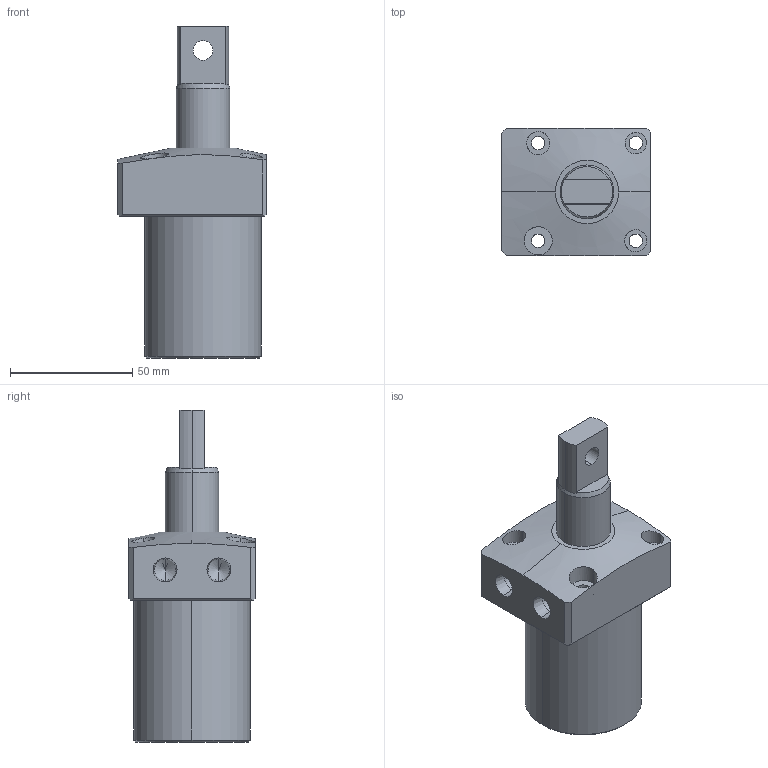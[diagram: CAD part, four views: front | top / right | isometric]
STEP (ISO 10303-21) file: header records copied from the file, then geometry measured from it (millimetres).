
FILE_DESCRIPTION (( 'STEP AP214' ), '1' );
FILE_NAME ('SC02-481-RP-TOP.STEP', '2021-08-22T06:39:55', ( '' ), ( '' ), 'SwSTEP 2.0', 'SolidWorks 2019', '' );
FILE_SCHEMA (( 'AUTOMOTIVE_DESIGN' ));
Length unit declared in the file: millimetre
Products named in the file (3): 48-PTYPE-PISTON; TOP-48-BODY; SC02-481-RP-TOP
Assembly tree (2 placements, depth 2):
  SC02-481-RP-TOP
    TOP-48-BODY
    48-PTYPE-PISTON
Bounding box: 61 x 52 x 136 mm (x, y, z)
Volume: 186279.7 mm3; surface area: 35520.8 mm2
Topology: 2 solids, 2 shells, 77 faces, 182 edges, 115 vertices
Faces by surface type: cylinder 35, plane 28, cone 14
Entity records: 2646 total; most frequent: CARTESIAN_POINT 738, DIRECTION 393, ORIENTED_EDGE 356, EDGE_CURVE 178, AXIS2_PLACEMENT_3D 155, VERTEX_POINT 115, EDGE_LOOP 97, LINE 83
